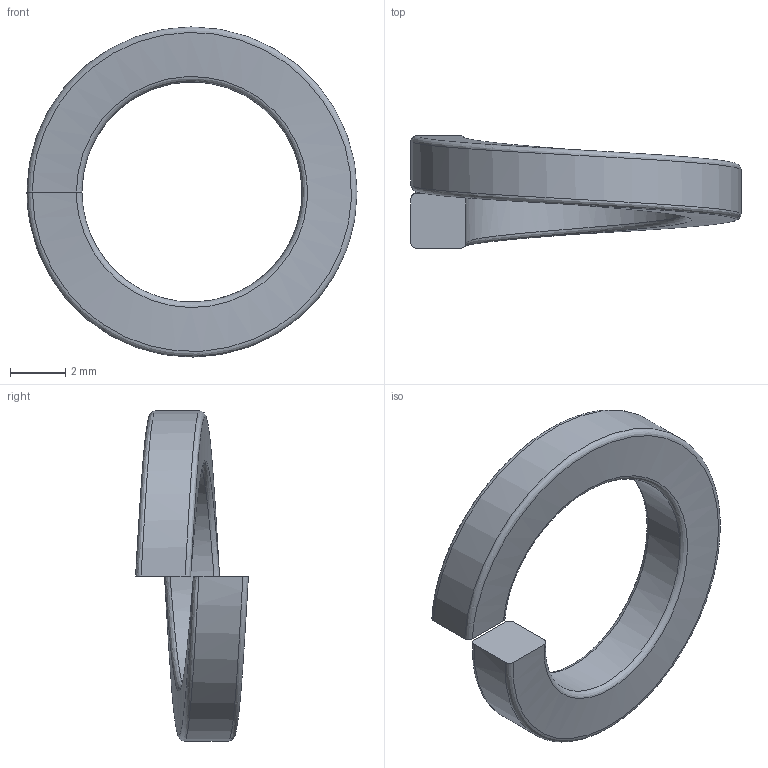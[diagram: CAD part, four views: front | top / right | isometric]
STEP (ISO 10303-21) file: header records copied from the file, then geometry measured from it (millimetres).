
FILE_DESCRIPTION (( 'STEP AP203' ), '1' );
FILE_NAME ('162-CE-SW-8.STEP', '2015-07-09T09:10:49', ( '' ), ( '' ), 'SwSTEP 2.0', 'SolidWorks 2013', '' );
FILE_SCHEMA (( 'CONFIG_CONTROL_DESIGN' ));
Length unit declared in the file: millimetre
Products named in the file (1): 162-CE-SW-8
Bounding box: 12 x 4.1 x 12 mm (x, y, z)
Volume: 124.6 mm3; surface area: 248.7 mm2
Topology: 1 solids, 1 shells, 10 faces, 24 edges, 16 vertices
Faces by surface type: bspline 8, plane 2
Entity records: 2697 total; most frequent: CARTESIAN_POINT 2446, ORIENTED_EDGE 48, EDGE_CURVE 24, B_SPLINE_CURVE_WITH_KNOTS 16, VERTEX_POINT 16, DIRECTION 14, ADVANCED_FACE 10, FACE_OUTER_BOUND 10
